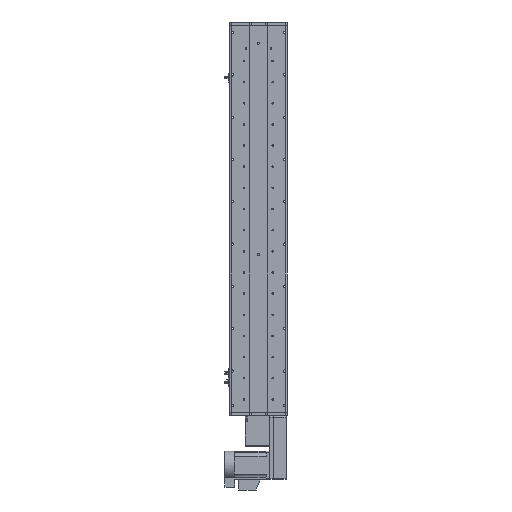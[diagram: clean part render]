
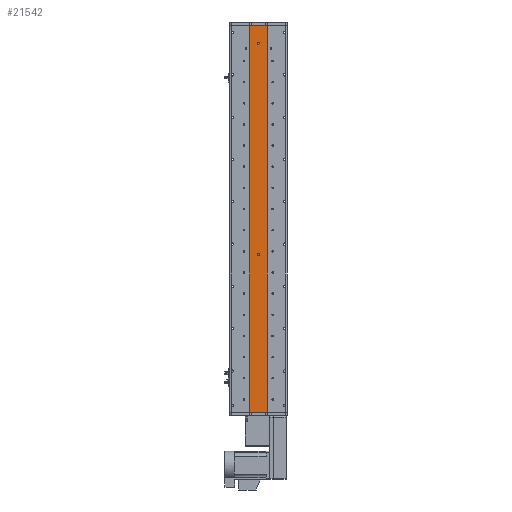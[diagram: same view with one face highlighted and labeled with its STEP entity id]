
A CAD part, front view. The second image highlights one B-rep face of the part: STEP entity #21542.
In plain terms, the highlighted planar face has unit normal (0, -1, 0).
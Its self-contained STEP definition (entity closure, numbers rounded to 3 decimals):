
#935 = CARTESIAN_POINT ( 'NONE',  ( 25., 1., 548.5 ) ) ;
#7521 = CIRCLE ( 'NONE', #30827, 3. ) ;
#7561 = ORIENTED_EDGE ( 'NONE', *, *, #39521, .F. ) ;
#8551 = CARTESIAN_POINT ( 'NONE',  ( 0., 1., 498.5 ) ) ;
#9004 = CARTESIAN_POINT ( 'NONE',  ( 25., 1., 548.5 ) ) ;
#9634 = PLANE ( 'NONE',  #58734 ) ;
#10801 = AXIS2_PLACEMENT_3D ( 'NONE', #11457, #46317, #16468 ) ;
#11321 = CARTESIAN_POINT ( 'NONE',  ( 0., 1., -101.5 ) ) ;
#11457 = CARTESIAN_POINT ( 'NONE',  ( 0., 1., -101.5 ) ) ;
#13209 = VERTEX_POINT ( 'NONE', #56038 ) ;
#13522 = DIRECTION ( 'NONE',  ( 0., 0., -1. ) ) ;
#13656 = VECTOR ( 'NONE', #60056, 1000. ) ;
#13765 = FACE_BOUND ( 'NONE', #33001, .T. ) ;
#14622 = DIRECTION ( 'NONE',  ( 0., 1., 0. ) ) ;
#14983 = LINE ( 'NONE', #9004, #39957 ) ;
#15654 = VECTOR ( 'NONE', #30290, 1000. ) ;
#16339 = DIRECTION ( 'NONE',  ( 0., 0., -1. ) ) ;
#16468 = DIRECTION ( 'NONE',  ( 0., 0., -1. ) ) ;
#17033 = EDGE_CURVE ( 'NONE', #21190, #27739, #41751, .T. ) ;
#18144 = EDGE_CURVE ( 'NONE', #21190, #30556, #14983, .T. ) ;
#18988 = VERTEX_POINT ( 'NONE', #26756 ) ;
#21190 = VERTEX_POINT ( 'NONE', #50584 ) ;
#21436 = DIRECTION ( 'NONE',  ( 1., 0., 0. ) ) ;
#21542 = ADVANCED_FACE ( 'NONE', ( #13765, #53473, #55010 ), #9634, .F. ) ;
#23565 = EDGE_LOOP ( 'NONE', ( #7561, #40687 ) ) ;
#23836 = VERTEX_POINT ( 'NONE', #38374 ) ;
#24704 = ORIENTED_EDGE ( 'NONE', *, *, #17033, .T. ) ;
#25262 = CARTESIAN_POINT ( 'NONE',  ( -25., 1., 548.5 ) ) ;
#25283 = CARTESIAN_POINT ( 'NONE',  ( 25., 1., 548.5 ) ) ;
#26756 = CARTESIAN_POINT ( 'NONE',  ( 0., 1., 495.5 ) ) ;
#27496 = CARTESIAN_POINT ( 'NONE',  ( 0., 1., 498.5 ) ) ;
#27739 = VERTEX_POINT ( 'NONE', #30594 ) ;
#28035 = VECTOR ( 'NONE', #21436, 1000. ) ;
#29127 = AXIS2_PLACEMENT_3D ( 'NONE', #27496, #62326, #32518 ) ;
#29444 = CARTESIAN_POINT ( 'NONE',  ( 25., 1., 548.5 ) ) ;
#29867 = CARTESIAN_POINT ( 'NONE',  ( 0., 1., -104.5 ) ) ;
#30290 = DIRECTION ( 'NONE',  ( 0., 0., -1. ) ) ;
#30556 = VERTEX_POINT ( 'NONE', #935 ) ;
#30594 = CARTESIAN_POINT ( 'NONE',  ( -25., 1., -548.5 ) ) ;
#30827 = AXIS2_PLACEMENT_3D ( 'NONE', #11321, #46172, #16339 ) ;
#30937 = EDGE_CURVE ( 'NONE', #30556, #45793, #42225, .T. ) ;
#32518 = DIRECTION ( 'NONE',  ( 0., 0., -1. ) ) ;
#33001 = EDGE_LOOP ( 'NONE', ( #58874, #35602 ) ) ;
#35602 = ORIENTED_EDGE ( 'NONE', *, *, #54562, .F. ) ;
#38374 = CARTESIAN_POINT ( 'NONE',  ( 0., 1., 501.5 ) ) ;
#39153 = ORIENTED_EDGE ( 'NONE', *, *, #18144, .F. ) ;
#39521 = EDGE_CURVE ( 'NONE', #51879, #13209, #7521, .T. ) ;
#39957 = VECTOR ( 'NONE', #53365, 1000. ) ;
#40687 = ORIENTED_EDGE ( 'NONE', *, *, #55424, .F. ) ;
#41751 = LINE ( 'NONE', #25262, #13656 ) ;
#42225 = LINE ( 'NONE', #25283, #15654 ) ;
#43378 = DIRECTION ( 'NONE',  ( 0., -1., 0. ) ) ;
#43789 = CIRCLE ( 'NONE', #10801, 3. ) ;
#45793 = VERTEX_POINT ( 'NONE', #60973 ) ;
#46172 = DIRECTION ( 'NONE',  ( 0., -1., 0. ) ) ;
#46300 = CIRCLE ( 'NONE', #52780, 3. ) ;
#46317 = DIRECTION ( 'NONE',  ( 0., -1., 0. ) ) ;
#47726 = ORIENTED_EDGE ( 'NONE', *, *, #30937, .F. ) ;
#47899 = ORIENTED_EDGE ( 'NONE', *, *, #48706, .T. ) ;
#48706 = EDGE_CURVE ( 'NONE', #27739, #45793, #54475, .T. ) ;
#49457 = DIRECTION ( 'NONE',  ( 0., 0., 1. ) ) ;
#50584 = CARTESIAN_POINT ( 'NONE',  ( -25., 1., 548.5 ) ) ;
#51879 = VERTEX_POINT ( 'NONE', #29867 ) ;
#52264 = EDGE_CURVE ( 'NONE', #18988, #23836, #46300, .T. ) ;
#52780 = AXIS2_PLACEMENT_3D ( 'NONE', #8551, #43378, #13522 ) ;
#53365 = DIRECTION ( 'NONE',  ( 1., 0., 0. ) ) ;
#53473 = FACE_BOUND ( 'NONE', #23565, .T. ) ;
#54475 = LINE ( 'NONE', #56257, #28035 ) ;
#54562 = EDGE_CURVE ( 'NONE', #23836, #18988, #54786, .T. ) ;
#54786 = CIRCLE ( 'NONE', #29127, 3. ) ;
#55010 = FACE_OUTER_BOUND ( 'NONE', #56145, .T. ) ;
#55424 = EDGE_CURVE ( 'NONE', #13209, #51879, #43789, .T. ) ;
#56038 = CARTESIAN_POINT ( 'NONE',  ( 0., 1., -98.5 ) ) ;
#56145 = EDGE_LOOP ( 'NONE', ( #47899, #47726, #39153, #24704 ) ) ;
#56257 = CARTESIAN_POINT ( 'NONE',  ( 25., 1., -548.5 ) ) ;
#58734 = AXIS2_PLACEMENT_3D ( 'NONE', #29444, #14622, #49457 ) ;
#58874 = ORIENTED_EDGE ( 'NONE', *, *, #52264, .F. ) ;
#60056 = DIRECTION ( 'NONE',  ( 0., 0., -1. ) ) ;
#60973 = CARTESIAN_POINT ( 'NONE',  ( 25., 1., -548.5 ) ) ;
#62326 = DIRECTION ( 'NONE',  ( 0., -1., 0. ) ) ;
